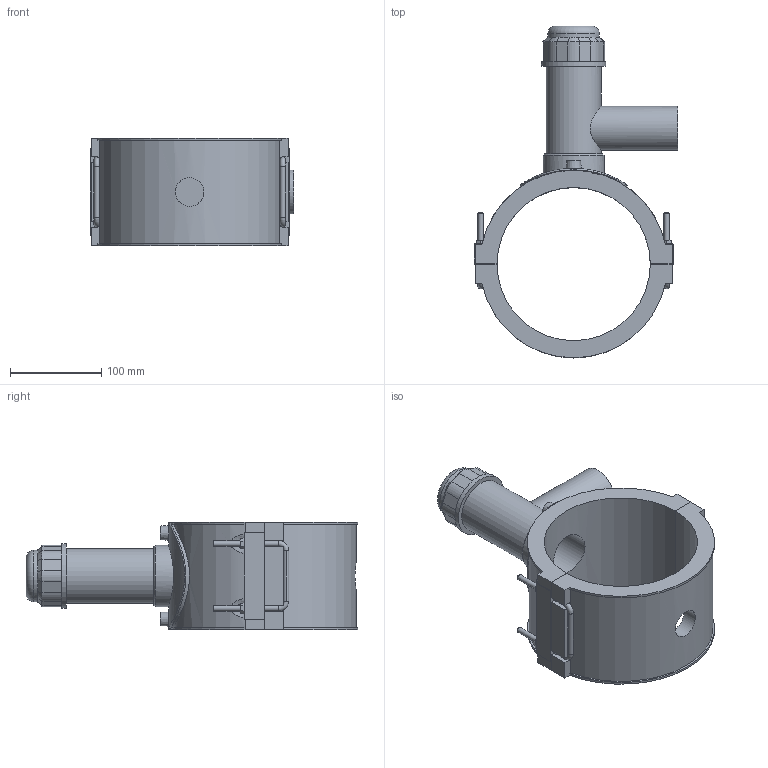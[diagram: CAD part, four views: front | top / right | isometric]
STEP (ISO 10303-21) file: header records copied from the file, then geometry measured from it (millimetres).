
FILE_DESCRIPTION(/* description */ ('PLASSON TAPPING SADDLE 6''''IPS x 1 1/2''''IPS'),/* implementation_level */ '2;1');
FILE_NAME(/* name */ 'C:\Dropbox\KIMPROJECTS-Inventor 2019\99-16-3568-Processing Inch\ASTM ElectroFusion 2021\5963B\5963BB03060015.ipt.stp',/* time_stamp */ '2021-08-30T09:55:37+03:00',/* author */ ('KIM'),/* organization */ (''),/* preprocessor_version */ 'ST-DEVELOPER v17.2',/* originating_system */ 'Autodesk Inventor 2019',/* authorisation */ '');
FILE_SCHEMA (('AUTOMOTIVE_DESIGN { 1 0 10303 214 3 1 1 }'));
Length unit declared in the file: millimetre
Products named in the file (1): 5963BB03060015
Bounding box: 223 x 363.85 x 118.11 mm (x, y, z)
Volume: 1547004.2 mm3; surface area: 264237 mm2
Topology: 1 solids, 1 shells, 198 faces, 533 edges, 350 vertices
Faces by surface type: plane 120, cylinder 53, cone 15, torus 5, bspline 5
Full cylindrical faces by diameter (mm): 4 x2, 6 x7, 10 x2, 31.36 x1, 38.48 x1, 48.1 x1, 49.392 x1, 56.448 x1, 59.976 x1, 67.032 x1, 70.56 x1, 117.6 x1
Entity records: 7524 total; most frequent: CARTESIAN_POINT 2403, ORIENTED_EDGE 1088, DIRECTION 1024, EDGE_CURVE 544, VERTEX_POINT 350, AXIS2_PLACEMENT_3D 346, LINE 332, VECTOR 332
